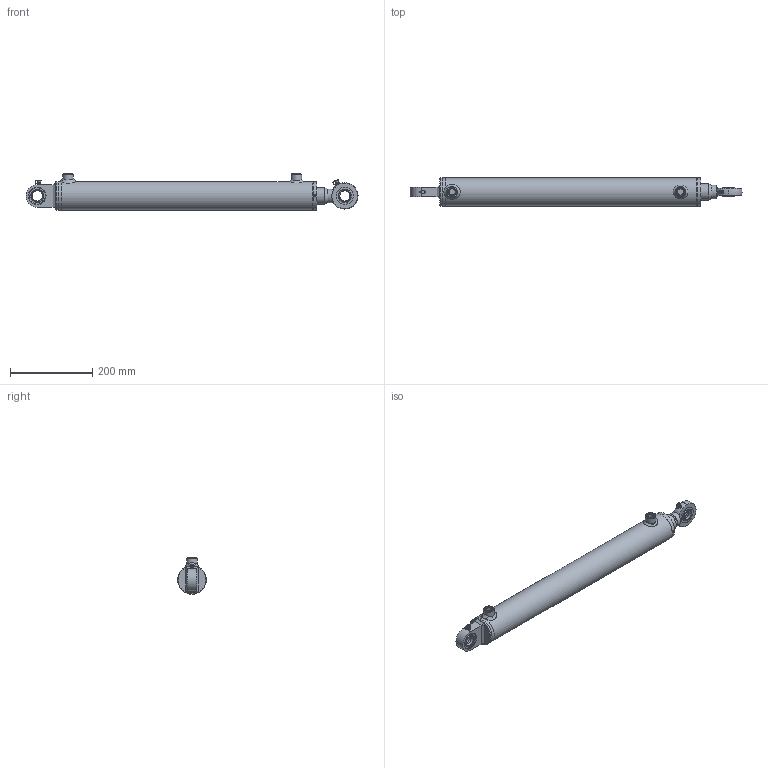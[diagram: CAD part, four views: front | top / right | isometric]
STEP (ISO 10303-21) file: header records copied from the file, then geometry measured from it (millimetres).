
FILE_DESCRIPTION( ( 'Unknown' ), '1' );
FILE_NAME( 'E:/LIBRERIA_3d/CILINDRI/HMB/HMB3400500.stp', 'Unknown', ( 'Unknown' ), ( 'Unknown' ), 'PSStep 17.0.49', 'Unknown', ' ' );
FILE_SCHEMA( ( 'AUTOMOTIVE_DESIGN { 1 0 10303 214 1 1 1 1 }' ) );
Length unit declared in the file: millimetre
Products named in the file (38): CG07006040; STL3500500-oa7; Saldatura d'angolo 1-oa5; FTM3500500-oa6; CBSC220600; CSTSF025C0; tsc25c_CORPO; AN00006001; CT00060027; CSTSF025N0; An00006001; CSTS025N_CORPO; CSAI002042; CSAI002042-oa0; CSTS025C00; cge0250000; APGR013000; CSTS025N00; CGE0250000; HM03400500; Saldatura con preparazione 1-oa3; Saldatura d'angolo 1-oa4; CF00060070; CBS0600000; APG0600000; CDB0002720; SBL4040500; Assem1; CSCS004010; Saldatura d'angolo 1-oa1; Saldatura d'angolo 2-oa2
Assembly tree (31 placements, depth 4):
  Saldatura d'angolo 1-oa5
  Saldatura d'angolo 1-oa5
  Saldatura d'angolo 1-oa4
  Saldatura d'angolo 1-oa4
  Assem1
    CSCS004010
    CSTS025C00
      cge0250000
      APGR013000
      CSTSF025C0
        tsc25c_CORPO
        AN00006001
    CSTS025N00
      CGE0250000
      APGR013000
      CSTSF025N0
        An00006001
        CSTS025N_CORPO
        CSAI002042
        CSAI002042-oa0
    HM03400500
      Saldatura con preparazione 1-oa3
      Saldatura con preparazione 1-oa3
      CF00060070
      CBS0600000
      APG0600000  x2
      CDB0002720
      SBL4040500
      CG07006040
        CG07006040
      CT00060027
        CT00060027
      STL3500500-oa7
        FTM3500500-oa6
        CBSC220600
Bounding box: 809.5 x 70 x 89 mm (x, y, z)
Volume: 1764085.1 mm3; surface area: 467681.9 mm2
Topology: 31 solids, 31 shells, 374 faces, 785 edges, 490 vertices
Faces by surface type: plane 138, cylinder 95, bspline 46, torus 46, cone 42, sphere 7
Full cylindrical faces by diameter (mm): 2 x4, 4 x1, 4.25 x1, 5 x8, 6 x4, 7 x2, 8 x2, 9 x2, 14.95 x2, 16 x2, 16.6 x2, 22 x2, 25 x4, 26 x2, 26.4 x1, 27 x5, 33.2 x1, 33.5 x3, 40 x6, 41 x1, 42 x9, 43 x1, 44 x1, 48 x1, 48.6 x1, 55 x1, 55.39 x2, 58.65 x2, 59.9 x1, 60 x1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
Entity records: 15746 total; most frequent: CARTESIAN_POINT 6521, DIRECTION 1346, ORIENTED_EDGE 950, AXIS2_PLACEMENT_3D 616, EDGE_LOOP 608, FACE_OUTER_BOUND 486, EDGE_CURVE 475, VERTEX_POINT 397
